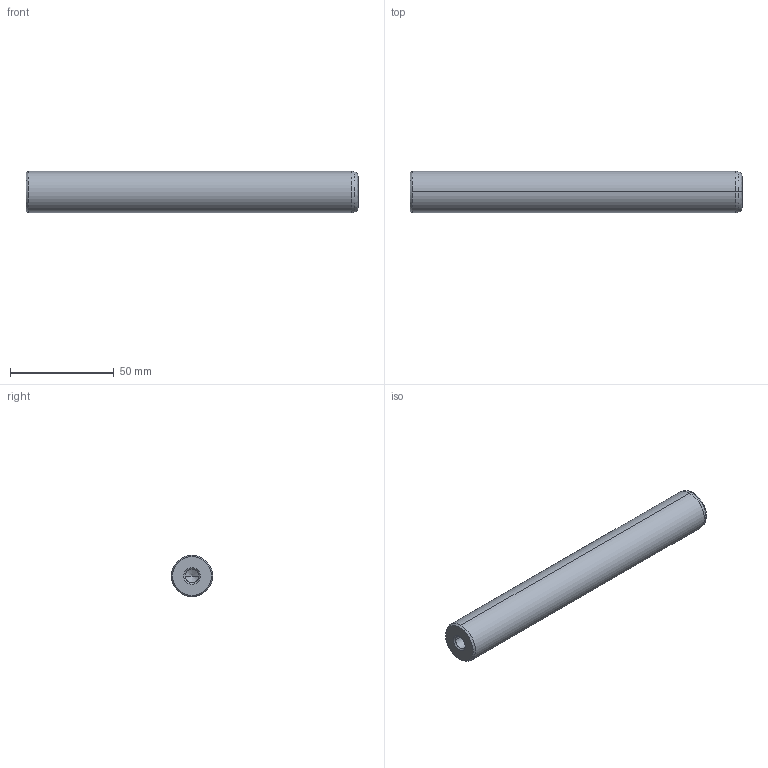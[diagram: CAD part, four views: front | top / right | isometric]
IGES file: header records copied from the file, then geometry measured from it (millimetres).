
Start section: START RECORD GO HERE.
Global section: file name: 720-20x160.igs; native system: DASSAULT SYSTEMES CATIA V5 R20 - www.3ds.com; preprocessor: CATIA Version 5 Release 20 ; author: Utente; organization: NB04-ASUS; date: 20210101.135948; units: millimetre
Bounding box: 160 x 20 x 20 mm (x, y, z)
Surface area: 11574.7 mm2 (no closed solid volume)
Topology: 0 solids, 0 shells, 22 faces, 108 edges, 104 vertices
Faces by surface type: revolution 20, plane 2
